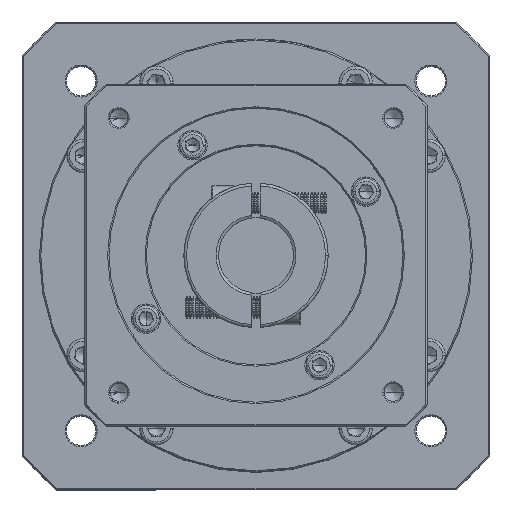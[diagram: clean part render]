
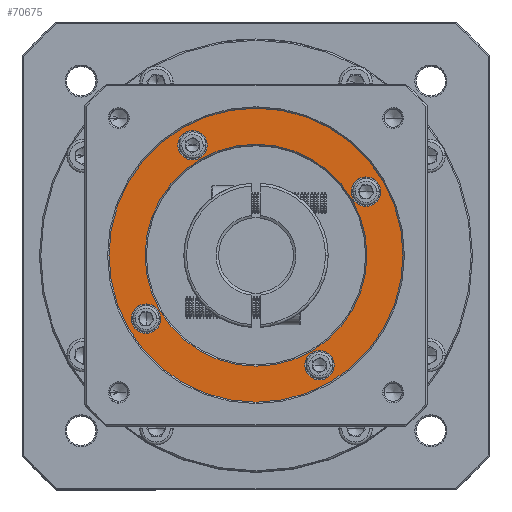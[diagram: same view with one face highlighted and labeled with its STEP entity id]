
A CAD part, top view. The second image highlights one B-rep face of the part: STEP entity #70675.
In plain terms, the highlighted planar face has unit normal (0, 0, 1).
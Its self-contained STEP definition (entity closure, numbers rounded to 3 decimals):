
#528 = CARTESIAN_POINT ( 'NONE',  ( -132.355, 68.958, 98.666 ) ) ;
#796 = EDGE_CURVE ( 'NONE', #15396, #15776, #20311, .T. ) ;
#2787 = CARTESIAN_POINT ( 'NONE',  ( -125.969, 133.844, 98.666 ) ) ;
#4309 = DIRECTION ( 'NONE',  ( 1., 0., 0. ) ) ;
#4751 = DIRECTION ( 'NONE',  ( 1., 0., 0. ) ) ;
#6798 = CARTESIAN_POINT ( 'NONE',  ( -137.855, 68.958, 98.666 ) ) ;
#7199 = CARTESIAN_POINT ( 'NONE',  ( -203.105, 110.094, 98.666 ) ) ;
#8999 = EDGE_CURVE ( 'NONE', #80375, #117910, #130872, .T. ) ;
#11883 = ORIENTED_EDGE ( 'NONE', *, *, #38491, .T. ) ;
#12596 = ORIENTED_EDGE ( 'NONE', *, *, #63324, .T. ) ;
#14288 = AXIS2_PLACEMENT_3D ( 'NONE', #67956, #100184, #122317 ) ;
#14367 = VERTEX_POINT ( 'NONE', #26989 ) ;
#15396 = VERTEX_POINT ( 'NONE', #103076 ) ;
#15776 = VERTEX_POINT ( 'NONE', #528 ) ;
#19127 = CIRCLE ( 'NONE', #28335, 5.5 ) ;
#20311 = CIRCLE ( 'NONE', #110000, 5.5 ) ;
#21102 = AXIS2_PLACEMENT_3D ( 'NONE', #50435, #105727, #82096 ) ;
#22385 = AXIS2_PLACEMENT_3D ( 'NONE', #6798, #39568, #72187 ) ;
#23629 = FACE_BOUND ( 'NONE', #129187, .T. ) ;
#24079 = ORIENTED_EDGE ( 'NONE', *, *, #44323, .T. ) ;
#24560 = CARTESIAN_POINT ( 'NONE',  ( -202.741, 86.344, 98.666 ) ) ;
#25277 = CARTESIAN_POINT ( 'NONE',  ( -114.969, 133.844, 98.666 ) ) ;
#26566 = DIRECTION ( 'NONE',  ( 1., 0., 0. ) ) ;
#26942 = AXIS2_PLACEMENT_3D ( 'NONE', #90225, #53296, #42181 ) ;
#26989 = CARTESIAN_POINT ( 'NONE',  ( -216.605, 110.094, 98.666 ) ) ;
#27385 = DIRECTION ( 'NONE',  ( 0., 0., -1. ) ) ;
#27547 = AXIS2_PLACEMENT_3D ( 'NONE', #83722, #130861, #105922 ) ;
#28335 = AXIS2_PLACEMENT_3D ( 'NONE', #24560, #80677, #113459 ) ;
#29617 = DIRECTION ( 'NONE',  ( 1., 0., 0. ) ) ;
#34390 = DIRECTION ( 'NONE',  ( 1., 0., 0. ) ) ;
#35518 = EDGE_CURVE ( 'NONE', #37622, #59012, #38559, .T. ) ;
#35611 = VERTEX_POINT ( 'NONE', #47732 ) ;
#36149 = CARTESIAN_POINT ( 'NONE',  ( -208.241, 86.344, 98.666 ) ) ;
#36388 = CIRCLE ( 'NONE', #22385, 5.5 ) ;
#37622 = VERTEX_POINT ( 'NONE', #69290 ) ;
#38491 = EDGE_CURVE ( 'NONE', #66385, #14367, #108826, .T. ) ;
#38559 = CIRCLE ( 'NONE', #142057, 5.5 ) ;
#39124 = EDGE_CURVE ( 'NONE', #79171, #140121, #93081, .T. ) ;
#39427 = CARTESIAN_POINT ( 'NONE',  ( -120.469, 133.844, 98.666 ) ) ;
#39457 = AXIS2_PLACEMENT_3D ( 'NONE', #124469, #93195, #114387 ) ;
#39568 = DIRECTION ( 'NONE',  ( 0., 0., -1. ) ) ;
#42000 = EDGE_LOOP ( 'NONE', ( #134662, #72716 ) ) ;
#42181 = DIRECTION ( 'NONE',  ( 1., 0., 0. ) ) ;
#44323 = EDGE_CURVE ( 'NONE', #117910, #80375, #53665, .T. ) ;
#46509 = EDGE_CURVE ( 'NONE', #14367, #66385, #92113, .T. ) ;
#47732 = CARTESIAN_POINT ( 'NONE',  ( -120.105, 110.094, 98.666 ) ) ;
#47780 = AXIS2_PLACEMENT_3D ( 'NONE', #95420, #83898, #29617 ) ;
#50435 = CARTESIAN_POINT ( 'NONE',  ( -161.605, 110.094, 98.666 ) ) ;
#52868 = FACE_OUTER_BOUND ( 'NONE', #69103, .T. ) ;
#53296 = DIRECTION ( 'NONE',  ( 0., 0., 1. ) ) ;
#53665 = CIRCLE ( 'NONE', #89217, 5.5 ) ;
#54389 = CARTESIAN_POINT ( 'NONE',  ( -179.855, 151.23, 98.666 ) ) ;
#54582 = CARTESIAN_POINT ( 'NONE',  ( -106.605, 110.094, 98.666 ) ) ;
#59012 = VERTEX_POINT ( 'NONE', #36149 ) ;
#59242 = CARTESIAN_POINT ( 'NONE',  ( -202.741, 86.344, 98.666 ) ) ;
#63324 = EDGE_CURVE ( 'NONE', #35611, #87957, #139052, .T. ) ;
#66385 = VERTEX_POINT ( 'NONE', #54582 ) ;
#67956 = CARTESIAN_POINT ( 'NONE',  ( -161.605, 110.094, 98.666 ) ) ;
#68343 = ORIENTED_EDGE ( 'NONE', *, *, #46509, .T. ) ;
#69103 = EDGE_LOOP ( 'NONE', ( #11883, #68343 ) ) ;
#69290 = CARTESIAN_POINT ( 'NONE',  ( -197.241, 86.344, 98.666 ) ) ;
#70011 = CARTESIAN_POINT ( 'NONE',  ( -137.855, 68.958, 98.666 ) ) ;
#70675 = ADVANCED_FACE ( 'NONE', ( #52868, #83695, #23629, #71695, #133631, #82024 ), #132862, .T. ) ;
#71695 = FACE_BOUND ( 'NONE', #129347, .T. ) ;
#71855 = EDGE_CURVE ( 'NONE', #140121, #79171, #134932, .T. ) ;
#72187 = DIRECTION ( 'NONE',  ( 1., 0., 0. ) ) ;
#72716 = ORIENTED_EDGE ( 'NONE', *, *, #125185, .T. ) ;
#79171 = VERTEX_POINT ( 'NONE', #135896 ) ;
#80375 = VERTEX_POINT ( 'NONE', #2787 ) ;
#80677 = DIRECTION ( 'NONE',  ( 0., 0., -1. ) ) ;
#82024 = FACE_BOUND ( 'NONE', #42000, .T. ) ;
#82096 = DIRECTION ( 'NONE',  ( 1., 0., 0. ) ) ;
#83695 = FACE_BOUND ( 'NONE', #133189, .T. ) ;
#83722 = CARTESIAN_POINT ( 'NONE',  ( -185.355, 151.23, 98.666 ) ) ;
#83898 = DIRECTION ( 'NONE',  ( 0., 0., 1. ) ) ;
#87957 = VERTEX_POINT ( 'NONE', #7199 ) ;
#89217 = AXIS2_PLACEMENT_3D ( 'NONE', #39427, #94160, #4309 ) ;
#89294 = ORIENTED_EDGE ( 'NONE', *, *, #94212, .T. ) ;
#90225 = CARTESIAN_POINT ( 'NONE',  ( -161.605, 110.094, 98.666 ) ) ;
#90708 = DIRECTION ( 'NONE',  ( 0., 0., -1. ) ) ;
#91208 = AXIS2_PLACEMENT_3D ( 'NONE', #135021, #27385, #4751 ) ;
#92113 = CIRCLE ( 'NONE', #26942, 55. ) ;
#93081 = CIRCLE ( 'NONE', #27547, 5.5 ) ;
#93195 = DIRECTION ( 'NONE',  ( 0., 0., -1. ) ) ;
#94160 = DIRECTION ( 'NONE',  ( 0., 0., -1. ) ) ;
#94212 = EDGE_CURVE ( 'NONE', #87957, #35611, #125953, .T. ) ;
#95420 = CARTESIAN_POINT ( 'NONE',  ( -161.605, 110.094, 98.666 ) ) ;
#100184 = DIRECTION ( 'NONE',  ( 0., 0., 1. ) ) ;
#100683 = CARTESIAN_POINT ( 'NONE',  ( -185.355, 151.23, 98.666 ) ) ;
#101790 = DIRECTION ( 'NONE',  ( 1., 0., 0. ) ) ;
#103076 = CARTESIAN_POINT ( 'NONE',  ( -143.355, 68.958, 98.666 ) ) ;
#105727 = DIRECTION ( 'NONE',  ( 0., 0., -1. ) ) ;
#105922 = DIRECTION ( 'NONE',  ( 1., 0., 0. ) ) ;
#107466 = ORIENTED_EDGE ( 'NONE', *, *, #39124, .T. ) ;
#108441 = EDGE_LOOP ( 'NONE', ( #122183, #107466 ) ) ;
#108826 = CIRCLE ( 'NONE', #47780, 55. ) ;
#110000 = AXIS2_PLACEMENT_3D ( 'NONE', #70011, #90708, #101790 ) ;
#110629 = ORIENTED_EDGE ( 'NONE', *, *, #117041, .T. ) ;
#113459 = DIRECTION ( 'NONE',  ( 1., 0., 0. ) ) ;
#114387 = DIRECTION ( 'NONE',  ( 1., 0., 0. ) ) ;
#117041 = EDGE_CURVE ( 'NONE', #15776, #15396, #36388, .T. ) ;
#117910 = VERTEX_POINT ( 'NONE', #25277 ) ;
#121498 = ORIENTED_EDGE ( 'NONE', *, *, #8999, .T. ) ;
#122183 = ORIENTED_EDGE ( 'NONE', *, *, #71855, .T. ) ;
#122317 = DIRECTION ( 'NONE',  ( 1., 0., 0. ) ) ;
#122826 = DIRECTION ( 'NONE',  ( 0., 0., -1. ) ) ;
#124469 = CARTESIAN_POINT ( 'NONE',  ( -120.469, 133.844, 98.666 ) ) ;
#125185 = EDGE_CURVE ( 'NONE', #59012, #37622, #19127, .T. ) ;
#125953 = CIRCLE ( 'NONE', #91208, 41.5 ) ;
#126944 = ORIENTED_EDGE ( 'NONE', *, *, #796, .T. ) ;
#129187 = EDGE_LOOP ( 'NONE', ( #24079, #121498 ) ) ;
#129347 = EDGE_LOOP ( 'NONE', ( #110629, #126944 ) ) ;
#130861 = DIRECTION ( 'NONE',  ( 0., 0., -1. ) ) ;
#130872 = CIRCLE ( 'NONE', #39457, 5.5 ) ;
#131496 = AXIS2_PLACEMENT_3D ( 'NONE', #100683, #122826, #34390 ) ;
#132862 = PLANE ( 'NONE',  #14288 ) ;
#133189 = EDGE_LOOP ( 'NONE', ( #12596, #89294 ) ) ;
#133631 = FACE_BOUND ( 'NONE', #108441, .T. ) ;
#134662 = ORIENTED_EDGE ( 'NONE', *, *, #35518, .T. ) ;
#134932 = CIRCLE ( 'NONE', #131496, 5.5 ) ;
#135021 = CARTESIAN_POINT ( 'NONE',  ( -161.605, 110.094, 98.666 ) ) ;
#135896 = CARTESIAN_POINT ( 'NONE',  ( -190.855, 151.23, 98.666 ) ) ;
#136089 = DIRECTION ( 'NONE',  ( 0., 0., -1. ) ) ;
#139052 = CIRCLE ( 'NONE', #21102, 41.5 ) ;
#140121 = VERTEX_POINT ( 'NONE', #54389 ) ;
#142057 = AXIS2_PLACEMENT_3D ( 'NONE', #59242, #136089, #26566 ) ;
